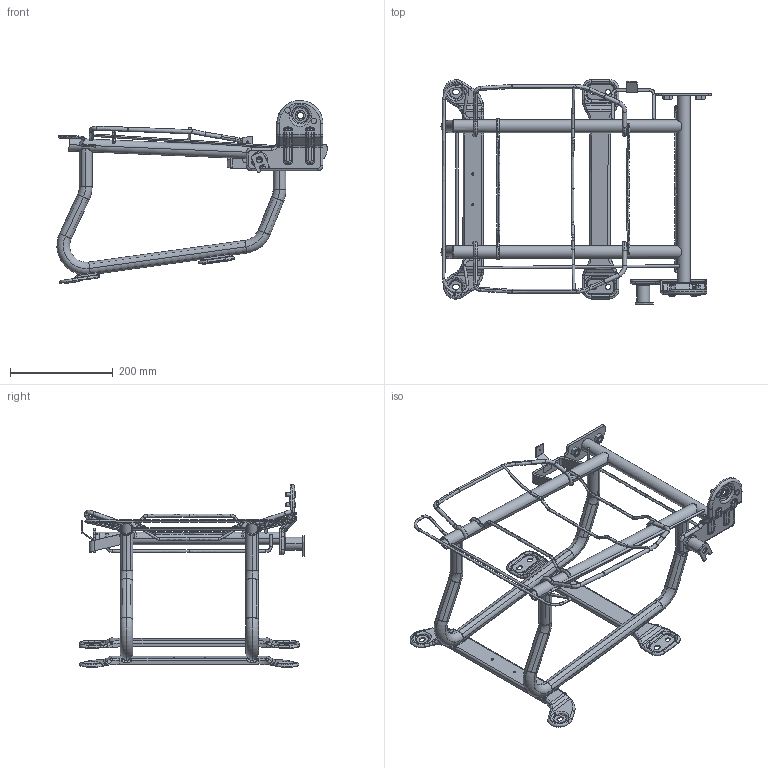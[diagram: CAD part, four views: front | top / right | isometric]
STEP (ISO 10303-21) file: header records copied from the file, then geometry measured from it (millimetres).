
FILE_DESCRIPTION(('CATIA V5 STEP Exchange'),'2;1');
FILE_NAME('C:\Users\Administrator\Desktop\解放底支架更改\SHT0017046-20250307.stp','2025-03-07T07:46:35+00:00',('none'),('none'),'CATIA Version 5 Release 20 GA (IN-10)','CATIA V5 STEP AP214','none');
FILE_SCHEMA(('AUTOMOTIVE_DESIGN { 1 0 10303 214 1 1 1 1 }'));
Length unit declared in the file: millimetre
Products named in the file (26): SHT0017046; SHT0014467; SHT0014468; SHT0017173; SHT0017174; SHT0017175; SHT0017176; SHT0017177; SHT0017178; SHT0017179; SHT0017180; SHT0014469; RC02-6802404-3; RC02 6802 404; Q370C10; M4-6907009; SQXM3000-6901105; SHT0015547; SHT0014974; SHT0014965; SHT0015061; SHT0014964; 321721801400; SHT0017963; H4681010216A0; SLT0010907
Assembly tree (29 placements, depth 3):
  SHT0017046
    SHT0014467
    SHT0014468
    SHT0017173
    SHT0017174
    SHT0017175
    SHT0017176
    SHT0017177
    SHT0017178
    SHT0017179
    SHT0017180
    SHT0014469  x2
    RC02-6802404-3
      RC02 6802 404
      Q370C10  x2
    M4-6907009
    SQXM3000-6901105  x2
    SHT0015547
    SHT0014974
    SHT0014965
    SHT0015061
      SHT0014964
      321721801400
    SHT0017963
    H4681010216A0
    SLT0010907  x2
Bounding box: 526.7 x 438.58 x 356.57 mm (x, y, z)
Volume: 701039.1 mm3; surface area: 654971.4 mm2
Topology: 27 solids, 27 shells, 1580 faces, 3803 edges, 2285 vertices
Faces by surface type: cylinder 683, torus 306, plane 264, bspline 236, revolution 48, cone 22, sphere 16, extrusion 5
Entity records: 57973 total; most frequent: CARTESIAN_POINT 28127, ORIENTED_EDGE 6840, DIRECTION 4570, EDGE_CURVE 3420, AXIS2_PLACEMENT_3D 2352, VERTEX_POINT 2051, EDGE_LOOP 1489, ADVANCED_FACE 1430
